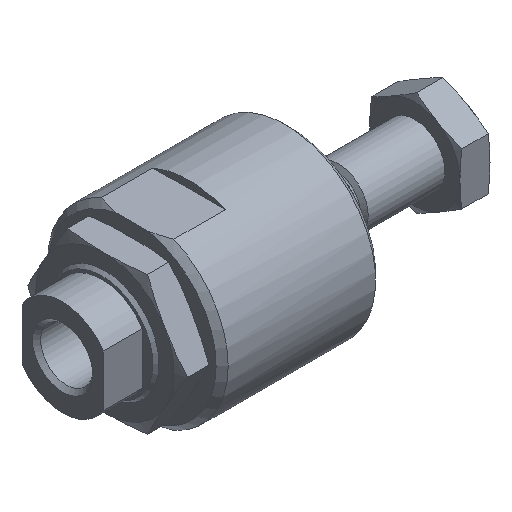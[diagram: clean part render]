
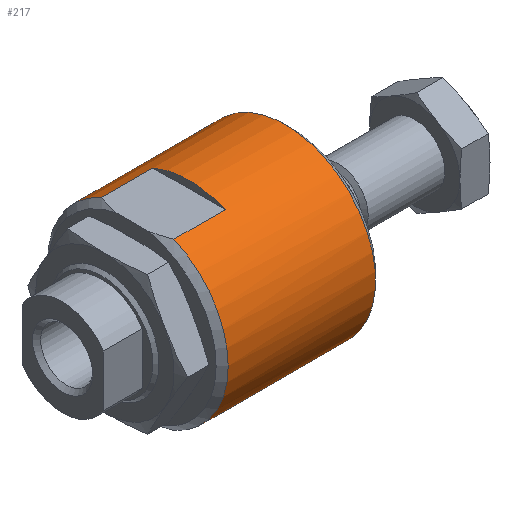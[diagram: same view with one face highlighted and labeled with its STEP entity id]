
A CAD part, isometric view. The second image highlights one B-rep face of the part: STEP entity #217.
In plain terms, the highlighted cylindrical face has radius 30 mm (diameter 60 mm), a full revolution.
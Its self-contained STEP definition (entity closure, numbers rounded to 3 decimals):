
#217 = ADVANCED_FACE( '', ( #323, #324 ), #325, .T. );
#323 = FACE_OUTER_BOUND( '', #539, .T. );
#324 = FACE_OUTER_BOUND( '', #540, .T. );
#325 = CYLINDRICAL_SURFACE( '', #541, 30. );
#539 = EDGE_LOOP( '', ( #822, #823, #824, #825, #826, #827, #828, #829 ) );
#540 = EDGE_LOOP( '', ( #830, #831, #832, #833, #834, #835, #836, #837 ) );
#541 = AXIS2_PLACEMENT_3D( '', #838, #839, #840 );
#822 = ORIENTED_EDGE( '', *, *, #1415, .F. );
#823 = ORIENTED_EDGE( '', *, *, #1416, .F. );
#824 = ORIENTED_EDGE( '', *, *, #1417, .F. );
#825 = ORIENTED_EDGE( '', *, *, #1418, .F. );
#826 = ORIENTED_EDGE( '', *, *, #1419, .F. );
#827 = ORIENTED_EDGE( '', *, *, #1420, .F. );
#828 = ORIENTED_EDGE( '', *, *, #1421, .F. );
#829 = ORIENTED_EDGE( '', *, *, #1422, .F. );
#830 = ORIENTED_EDGE( '', *, *, #1394, .T. );
#831 = ORIENTED_EDGE( '', *, *, #1423, .T. );
#832 = ORIENTED_EDGE( '', *, *, #1402, .T. );
#833 = ORIENTED_EDGE( '', *, *, #1424, .T. );
#834 = ORIENTED_EDGE( '', *, *, #1400, .T. );
#835 = ORIENTED_EDGE( '', *, *, #1425, .T. );
#836 = ORIENTED_EDGE( '', *, *, #1396, .T. );
#837 = ORIENTED_EDGE( '', *, *, #1426, .T. );
#838 = CARTESIAN_POINT( '', ( 76., 0., 0. ) );
#839 = DIRECTION( '', ( -1., 0., 0. ) );
#840 = DIRECTION( '', ( 0., 0., -1. ) );
#1394 = EDGE_CURVE( '', #1598, #1596, #1599, .F. );
#1396 = EDGE_CURVE( '', #1602, #1600, #1603, .T. );
#1400 = EDGE_CURVE( '', #1610, #1608, #1611, .F. );
#1402 = EDGE_CURVE( '', #1614, #1612, #1615, .T. );
#1415 = EDGE_CURVE( '', #1637, #1638, #1639, .T. );
#1416 = EDGE_CURVE( '', #1640, #1637, #1641, .T. );
#1417 = EDGE_CURVE( '', #1642, #1640, #1643, .F. );
#1418 = EDGE_CURVE( '', #1644, #1642, #1645, .T. );
#1419 = EDGE_CURVE( '', #1646, #1644, #1647, .F. );
#1420 = EDGE_CURVE( '', #1648, #1646, #1649, .T. );
#1421 = EDGE_CURVE( '', #1650, #1648, #1651, .T. );
#1422 = EDGE_CURVE( '', #1638, #1650, #1652, .T. );
#1423 = EDGE_CURVE( '', #1596, #1614, #1653, .T. );
#1424 = EDGE_CURVE( '', #1612, #1610, #1654, .T. );
#1425 = EDGE_CURVE( '', #1608, #1602, #1655, .T. );
#1426 = EDGE_CURVE( '', #1600, #1598, #1656, .T. );
#1596 = VERTEX_POINT( '', #2002 );
#1598 = VERTEX_POINT( '', #2009 );
#1599 = LINE( '', #2010, #2011 );
#1600 = VERTEX_POINT( '', #2012 );
#1602 = VERTEX_POINT( '', #2015 );
#1603 = LINE( '', #2016, #2017 );
#1608 = VERTEX_POINT( '', #2026 );
#1610 = VERTEX_POINT( '', #2033 );
#1611 = LINE( '', #2034, #2035 );
#1612 = VERTEX_POINT( '', #2036 );
#1614 = VERTEX_POINT( '', #2039 );
#1615 = LINE( '', #2040, #2041 );
#1637 = VERTEX_POINT( '', #2074 );
#1638 = VERTEX_POINT( '', #2075 );
#1639 = LINE( '', #2076, #2077 );
#1640 = VERTEX_POINT( '', #2078 );
#1641 = CIRCLE( '', #2079, 30. );
#1642 = VERTEX_POINT( '', #2080 );
#1643 = LINE( '', #2081, #2082 );
#1644 = VERTEX_POINT( '', #2083 );
#1645 = CIRCLE( '', #2084, 30. );
#1646 = VERTEX_POINT( '', #2085 );
#1647 = LINE( '', #2086, #2087 );
#1648 = VERTEX_POINT( '', #2088 );
#1649 = CIRCLE( '', #2089, 30. );
#1650 = VERTEX_POINT( '', #2090 );
#1651 = LINE( '', #2091, #2092 );
#1652 = CIRCLE( '', #2093, 30. );
#1653 = CIRCLE( '', #2094, 30. );
#1654 = CIRCLE( '', #2095, 30. );
#1655 = CIRCLE( '', #2096, 30. );
#1656 = CIRCLE( '', #2097, 30. );
#2002 = CARTESIAN_POINT( '', ( 25., 11.99, -27.5 ) );
#2009 = CARTESIAN_POINT( '', ( 42., 11.99, -27.5 ) );
#2010 = CARTESIAN_POINT( '', ( 76., 11.99, -27.5 ) );
#2011 = VECTOR( '', #2466, 1000. );
#2012 = CARTESIAN_POINT( '', ( 42., -11.99, -27.5 ) );
#2015 = CARTESIAN_POINT( '', ( 25., -11.99, -27.5 ) );
#2016 = CARTESIAN_POINT( '', ( 76., -11.99, -27.5 ) );
#2017 = VECTOR( '', #2468, 1000. );
#2026 = CARTESIAN_POINT( '', ( 25., -11.99, 27.5 ) );
#2033 = CARTESIAN_POINT( '', ( 42., -11.99, 27.5 ) );
#2034 = CARTESIAN_POINT( '', ( 76., -11.99, 27.5 ) );
#2035 = VECTOR( '', #2470, 1000. );
#2036 = CARTESIAN_POINT( '', ( 42., 11.99, 27.5 ) );
#2039 = CARTESIAN_POINT( '', ( 25., 11.99, 27.5 ) );
#2040 = CARTESIAN_POINT( '', ( 76., 11.99, 27.5 ) );
#2041 = VECTOR( '', #2472, 1000. );
#2074 = CARTESIAN_POINT( '', ( 35., 21.903, 20.5 ) );
#2075 = CARTESIAN_POINT( '', ( 64., 21.903, 20.5 ) );
#2076 = CARTESIAN_POINT( '', ( 76., 21.903, 20.5 ) );
#2077 = VECTOR( '', #2490, 1000. );
#2078 = CARTESIAN_POINT( '', ( 35., 21.903, -20.5 ) );
#2079 = AXIS2_PLACEMENT_3D( '', #2491, #2492, #2493 );
#2080 = CARTESIAN_POINT( '', ( 64., 21.903, -20.5 ) );
#2081 = CARTESIAN_POINT( '', ( 76., 21.903, -20.5 ) );
#2082 = VECTOR( '', #2494, 1000. );
#2083 = CARTESIAN_POINT( '', ( 64., 26.791, -13.5 ) );
#2084 = AXIS2_PLACEMENT_3D( '', #2495, #2496, #2497 );
#2085 = CARTESIAN_POINT( '', ( 74., 26.791, -13.5 ) );
#2086 = CARTESIAN_POINT( '', ( 76., 26.791, -13.5 ) );
#2087 = VECTOR( '', #2498, 1000. );
#2088 = CARTESIAN_POINT( '', ( 74., 26.791, 13.5 ) );
#2089 = AXIS2_PLACEMENT_3D( '', #2499, #2500, #2501 );
#2090 = CARTESIAN_POINT( '', ( 64., 26.791, 13.5 ) );
#2091 = CARTESIAN_POINT( '', ( 76., 26.791, 13.5 ) );
#2092 = VECTOR( '', #2502, 1000. );
#2093 = AXIS2_PLACEMENT_3D( '', #2503, #2504, #2505 );
#2094 = AXIS2_PLACEMENT_3D( '', #2506, #2507, #2508 );
#2095 = AXIS2_PLACEMENT_3D( '', #2509, #2510, #2511 );
#2096 = AXIS2_PLACEMENT_3D( '', #2512, #2513, #2514 );
#2097 = AXIS2_PLACEMENT_3D( '', #2515, #2516, #2517 );
#2466 = DIRECTION( '', ( 1., 0., 0. ) );
#2468 = DIRECTION( '', ( 1., 0., 0. ) );
#2470 = DIRECTION( '', ( 1., 0., 0. ) );
#2472 = DIRECTION( '', ( 1., 0., 0. ) );
#2490 = DIRECTION( '', ( 1., 0., 0. ) );
#2491 = CARTESIAN_POINT( '', ( 35., 0., 0. ) );
#2492 = DIRECTION( '', ( 1., 0., 0. ) );
#2493 = DIRECTION( '', ( 0., 0., -1. ) );
#2494 = DIRECTION( '', ( 1., 0., 0. ) );
#2495 = CARTESIAN_POINT( '', ( 64., 0., 0. ) );
#2496 = DIRECTION( '', ( -1., 0., 0. ) );
#2497 = DIRECTION( '', ( 0., 0., 1. ) );
#2498 = DIRECTION( '', ( 1., 0., 0. ) );
#2499 = CARTESIAN_POINT( '', ( 74., 0., 0. ) );
#2500 = DIRECTION( '', ( 1., 0., 0. ) );
#2501 = DIRECTION( '', ( 0., 0., -1. ) );
#2502 = DIRECTION( '', ( 1., 0., 0. ) );
#2503 = CARTESIAN_POINT( '', ( 64., 0., 0. ) );
#2504 = DIRECTION( '', ( -1., 0., 0. ) );
#2505 = DIRECTION( '', ( 0., 0., 1. ) );
#2506 = CARTESIAN_POINT( '', ( 25., 0., 0. ) );
#2507 = DIRECTION( '', ( 1., 0., 0. ) );
#2508 = DIRECTION( '', ( 0., 0., -1. ) );
#2509 = CARTESIAN_POINT( '', ( 42., 0., 0. ) );
#2510 = DIRECTION( '', ( 1., 0., 0. ) );
#2511 = DIRECTION( '', ( 0., 0., -1. ) );
#2512 = CARTESIAN_POINT( '', ( 25., 0., 0. ) );
#2513 = DIRECTION( '', ( 1., 0., 0. ) );
#2514 = DIRECTION( '', ( 0., 0., -1. ) );
#2515 = CARTESIAN_POINT( '', ( 42., 0., 0. ) );
#2516 = DIRECTION( '', ( 1., 0., 0. ) );
#2517 = DIRECTION( '', ( 0., 0., -1. ) );
